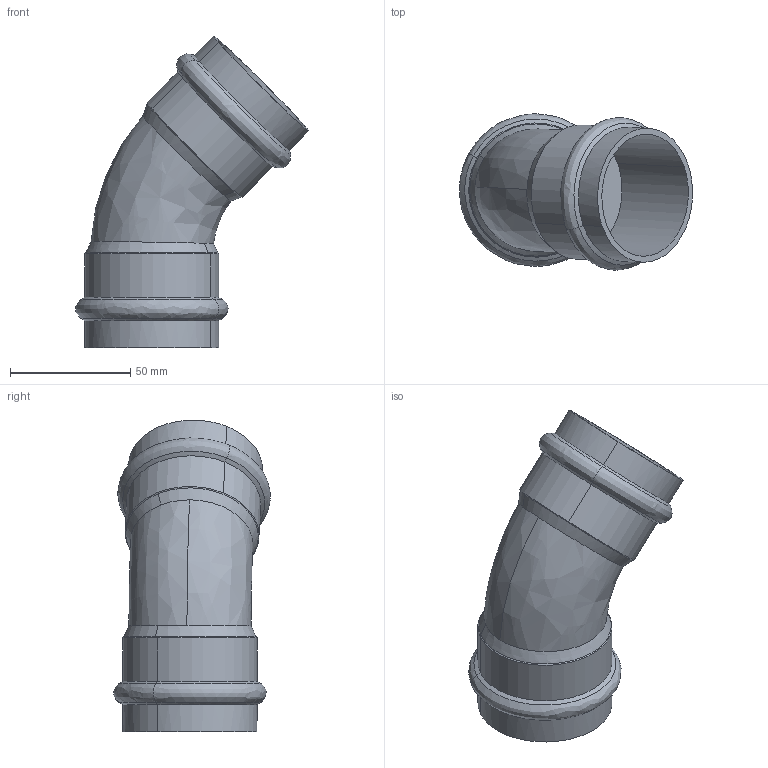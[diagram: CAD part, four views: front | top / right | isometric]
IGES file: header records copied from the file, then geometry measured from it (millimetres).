
Start section: 3D InterOp IGES (Version 25 0 1), Spatial Corp. Copyright (c) 1999-2007.
Global section: file name: pim0004549.igs; native system: Spatial Corp.; preprocessor: 3D InterOp ACIS/IGES; author: Cad-Pim; organization: TransMagic, Inc.; date: 20150430.171947; units: millimetre
Bounding box: 96.7 x 65 x 129.36 mm (x, y, z)
Volume: 140715.6 mm3; surface area: 40455.5 mm2
Topology: 1 solids, 1 shells, 39 faces, 103 edges, 68 vertices
Faces by surface type: bspline 15, cone 12, cylinder 12
